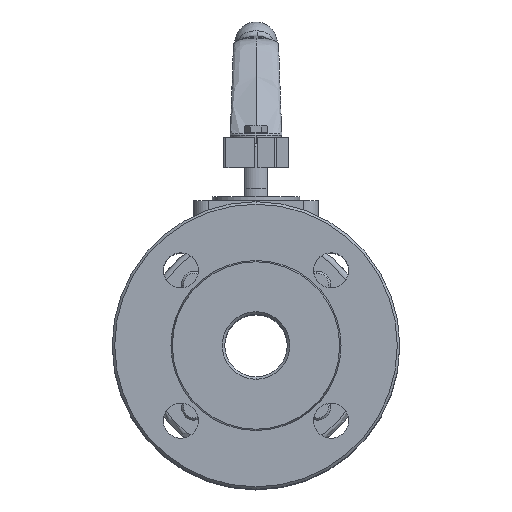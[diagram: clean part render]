
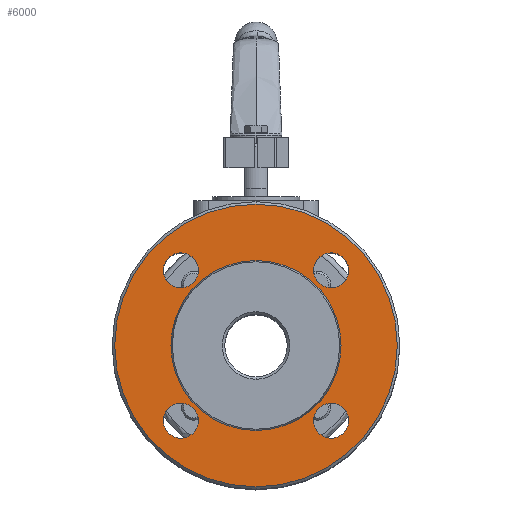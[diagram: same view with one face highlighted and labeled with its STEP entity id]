
A CAD part, top view. The second image highlights one B-rep face of the part: STEP entity #6000.
In plain terms, the highlighted planar face has unit normal (0, 0, 1) as drawn and (-1, 0, 0) by its records, which use the part's own axes.
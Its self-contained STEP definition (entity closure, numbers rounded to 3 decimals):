
#189 = FACE_BOUND ( 'NONE', #1568, .T. ) ;
#342 = ORIENTED_EDGE ( 'NONE', *, *, #6024, .F. ) ;
#355 = ORIENTED_EDGE ( 'NONE', *, *, #8932, .F. ) ;
#376 = AXIS2_PLACEMENT_3D ( 'NONE', #5264, #13040, #6381 ) ;
#478 = EDGE_CURVE ( 'NONE', #3376, #13460, #5576, .T. ) ;
#746 = ORIENTED_EDGE ( 'NONE', *, *, #478, .F. ) ;
#855 = DIRECTION ( 'NONE',  ( 0., 0., 1. ) ) ;
#868 = EDGE_LOOP ( 'NONE', ( #5118, #355 ) ) ;
#890 = CARTESIAN_POINT ( 'NONE',  ( -46.5, -56.5, 0. ) ) ;
#964 = ORIENTED_EDGE ( 'NONE', *, *, #13009, .F. ) ;
#1137 = AXIS2_PLACEMENT_3D ( 'NONE', #14209, #7556, #855 ) ;
#1203 = AXIS2_PLACEMENT_3D ( 'NONE', #8525, #1858, #9651 ) ;
#1296 = CIRCLE ( 'NONE', #2808, 56.5 ) ;
#1568 = EDGE_LOOP ( 'NONE', ( #342, #964 ) ) ;
#1858 = DIRECTION ( 'NONE',  ( -1., 0., 0. ) ) ;
#2011 = CIRCLE ( 'NONE', #2154, 7. ) ;
#2096 = VERTEX_POINT ( 'NONE', #890 ) ;
#2154 = AXIS2_PLACEMENT_3D ( 'NONE', #10099, #3416, #11226 ) ;
#2344 = AXIS2_PLACEMENT_3D ( 'NONE', #2530, #10311, #3629 ) ;
#2359 = ORIENTED_EDGE ( 'NONE', *, *, #12184, .T. ) ;
#2474 = CIRCLE ( 'NONE', #1203, 7. ) ;
#2530 = CARTESIAN_POINT ( 'NONE',  ( -46.5, 0., 0. ) ) ;
#2663 = CIRCLE ( 'NONE', #10742, 56.5 ) ;
#2808 = AXIS2_PLACEMENT_3D ( 'NONE', #6701, #14471, #7830 ) ;
#2809 = VERTEX_POINT ( 'NONE', #9012 ) ;
#2854 = FACE_BOUND ( 'NONE', #868, .T. ) ;
#3048 = DIRECTION ( 'NONE',  ( -1., 0., 0. ) ) ;
#3050 = CIRCLE ( 'NONE', #2344, 34. ) ;
#3054 = DIRECTION ( 'NONE',  ( -1., 0., 0. ) ) ;
#3134 = CARTESIAN_POINT ( 'NONE',  ( -46.5, 30.052, 37.052 ) ) ;
#3210 = DIRECTION ( 'NONE',  ( -1., 0., 0. ) ) ;
#3376 = VERTEX_POINT ( 'NONE', #12484 ) ;
#3407 = AXIS2_PLACEMENT_3D ( 'NONE', #9720, #3054, #10829 ) ;
#3416 = DIRECTION ( 'NONE',  ( -1., 0., 0. ) ) ;
#3568 = AXIS2_PLACEMENT_3D ( 'NONE', #9872, #3210, #10977 ) ;
#3629 = DIRECTION ( 'NONE',  ( 0., -1., 0. ) ) ;
#3734 = VERTEX_POINT ( 'NONE', #10293 ) ;
#4132 = PLANE ( 'NONE',  #376 ) ;
#4497 = CARTESIAN_POINT ( 'NONE',  ( -46.5, -30.052, 30.052 ) ) ;
#4616 = CARTESIAN_POINT ( 'NONE',  ( -46.5, 0., 0. ) ) ;
#4711 = ORIENTED_EDGE ( 'NONE', *, *, #11798, .F. ) ;
#4954 = AXIS2_PLACEMENT_3D ( 'NONE', #11826, #11970, #11922 ) ;
#5118 = ORIENTED_EDGE ( 'NONE', *, *, #12818, .F. ) ;
#5264 = CARTESIAN_POINT ( 'NONE',  ( -46.5, -56.5, 0. ) ) ;
#5282 = EDGE_LOOP ( 'NONE', ( #6090, #7130 ) ) ;
#5459 = FACE_BOUND ( 'NONE', #11851, .T. ) ;
#5576 = CIRCLE ( 'NONE', #4954, 7. ) ;
#5616 = DIRECTION ( 'NONE',  ( 0., 0., 1. ) ) ;
#5678 = AXIS2_PLACEMENT_3D ( 'NONE', #4616, #12386, #5727 ) ;
#5727 = DIRECTION ( 'NONE',  ( 0., -1., 0. ) ) ;
#5775 = CARTESIAN_POINT ( 'NONE',  ( -46.5, 30.052, -37.052 ) ) ;
#5950 = ORIENTED_EDGE ( 'NONE', *, *, #12619, .T. ) ;
#5978 = AXIS2_PLACEMENT_3D ( 'NONE', #4497, #12275, #5616 ) ;
#6000 = ADVANCED_FACE ( 'NONE', ( #11383, #14320, #2854, #189, #8431, #5459 ), #4132, .T. ) ;
#6024 = EDGE_CURVE ( 'NONE', #10641, #2809, #13987, .T. ) ;
#6048 = VERTEX_POINT ( 'NONE', #14249 ) ;
#6090 = ORIENTED_EDGE ( 'NONE', *, *, #6678, .F. ) ;
#6288 = CARTESIAN_POINT ( 'NONE',  ( -46.5, -30.052, 37.052 ) ) ;
#6381 = DIRECTION ( 'NONE',  ( 0., -1., 0. ) ) ;
#6428 = CARTESIAN_POINT ( 'NONE',  ( -46.5, 30.052, 30.052 ) ) ;
#6678 = EDGE_CURVE ( 'NONE', #12695, #10749, #13618, .T. ) ;
#6701 = CARTESIAN_POINT ( 'NONE',  ( -46.5, 0., 0. ) ) ;
#7130 = ORIENTED_EDGE ( 'NONE', *, *, #10209, .F. ) ;
#7442 = ORIENTED_EDGE ( 'NONE', *, *, #10809, .F. ) ;
#7555 = DIRECTION ( 'NONE',  ( 0., 0., 1. ) ) ;
#7556 = DIRECTION ( 'NONE',  ( -1., 0., 0. ) ) ;
#7781 = VERTEX_POINT ( 'NONE', #9279 ) ;
#7830 = DIRECTION ( 'NONE',  ( 0., -1., 0. ) ) ;
#8031 = EDGE_LOOP ( 'NONE', ( #746, #12646 ) ) ;
#8431 = FACE_OUTER_BOUND ( 'NONE', #12033, .T. ) ;
#8525 = CARTESIAN_POINT ( 'NONE',  ( -46.5, -30.052, -30.052 ) ) ;
#8613 = CARTESIAN_POINT ( 'NONE',  ( -46.5, -30.052, -23.052 ) ) ;
#8932 = EDGE_CURVE ( 'NONE', #3734, #9274, #13382, .T. ) ;
#9012 = CARTESIAN_POINT ( 'NONE',  ( -46.5, -30.052, -37.052 ) ) ;
#9274 = VERTEX_POINT ( 'NONE', #6288 ) ;
#9279 = CARTESIAN_POINT ( 'NONE',  ( -46.5, -34., 0. ) ) ;
#9651 = DIRECTION ( 'NONE',  ( 0., 0., 1. ) ) ;
#9714 = CARTESIAN_POINT ( 'NONE',  ( -46.5, 0., 0. ) ) ;
#9720 = CARTESIAN_POINT ( 'NONE',  ( -46.5, -30.052, 30.052 ) ) ;
#9872 = CARTESIAN_POINT ( 'NONE',  ( -46.5, 30.052, 30.052 ) ) ;
#10050 = CIRCLE ( 'NONE', #13497, 7. ) ;
#10099 = CARTESIAN_POINT ( 'NONE',  ( -46.5, 30.052, -30.052 ) ) ;
#10209 = EDGE_CURVE ( 'NONE', #10749, #12695, #10050, .T. ) ;
#10293 = CARTESIAN_POINT ( 'NONE',  ( -46.5, -30.052, 23.052 ) ) ;
#10311 = DIRECTION ( 'NONE',  ( -1., 0., 0. ) ) ;
#10641 = VERTEX_POINT ( 'NONE', #8613 ) ;
#10742 = AXIS2_PLACEMENT_3D ( 'NONE', #9714, #3048, #10824 ) ;
#10749 = VERTEX_POINT ( 'NONE', #12253 ) ;
#10809 = EDGE_CURVE ( 'NONE', #7781, #6048, #12447, .T. ) ;
#10824 = DIRECTION ( 'NONE',  ( 0., -1., 0. ) ) ;
#10829 = DIRECTION ( 'NONE',  ( 0., 0., 1. ) ) ;
#10977 = DIRECTION ( 'NONE',  ( 0., 0., 1. ) ) ;
#11226 = DIRECTION ( 'NONE',  ( 0., 0., 1. ) ) ;
#11280 = EDGE_CURVE ( 'NONE', #13460, #3376, #2011, .T. ) ;
#11383 = FACE_BOUND ( 'NONE', #8031, .T. ) ;
#11798 = EDGE_CURVE ( 'NONE', #6048, #7781, #3050, .T. ) ;
#11826 = CARTESIAN_POINT ( 'NONE',  ( -46.5, 30.052, -30.052 ) ) ;
#11851 = EDGE_LOOP ( 'NONE', ( #4711, #7442 ) ) ;
#11922 = DIRECTION ( 'NONE',  ( 0., 0., 1. ) ) ;
#11970 = DIRECTION ( 'NONE',  ( -1., 0., 0. ) ) ;
#12033 = EDGE_LOOP ( 'NONE', ( #2359, #5950 ) ) ;
#12184 = EDGE_CURVE ( 'NONE', #13457, #2096, #1296, .T. ) ;
#12253 = CARTESIAN_POINT ( 'NONE',  ( -46.5, 30.052, 23.052 ) ) ;
#12275 = DIRECTION ( 'NONE',  ( -1., 0., 0. ) ) ;
#12386 = DIRECTION ( 'NONE',  ( -1., 0., 0. ) ) ;
#12432 = CARTESIAN_POINT ( 'NONE',  ( -46.5, 56.5, 0. ) ) ;
#12447 = CIRCLE ( 'NONE', #5678, 34. ) ;
#12484 = CARTESIAN_POINT ( 'NONE',  ( -46.5, 30.052, -23.052 ) ) ;
#12619 = EDGE_CURVE ( 'NONE', #2096, #13457, #2663, .T. ) ;
#12646 = ORIENTED_EDGE ( 'NONE', *, *, #11280, .F. ) ;
#12695 = VERTEX_POINT ( 'NONE', #3134 ) ;
#12740 = CIRCLE ( 'NONE', #5978, 7. ) ;
#12818 = EDGE_CURVE ( 'NONE', #9274, #3734, #12740, .T. ) ;
#13009 = EDGE_CURVE ( 'NONE', #2809, #10641, #2474, .T. ) ;
#13040 = DIRECTION ( 'NONE',  ( -1., 0., 0. ) ) ;
#13382 = CIRCLE ( 'NONE', #3407, 7. ) ;
#13457 = VERTEX_POINT ( 'NONE', #12432 ) ;
#13460 = VERTEX_POINT ( 'NONE', #5775 ) ;
#13497 = AXIS2_PLACEMENT_3D ( 'NONE', #6428, #14208, #7555 ) ;
#13618 = CIRCLE ( 'NONE', #3568, 7. ) ;
#13987 = CIRCLE ( 'NONE', #1137, 7. ) ;
#14208 = DIRECTION ( 'NONE',  ( -1., 0., 0. ) ) ;
#14209 = CARTESIAN_POINT ( 'NONE',  ( -46.5, -30.052, -30.052 ) ) ;
#14249 = CARTESIAN_POINT ( 'NONE',  ( -46.5, 34., 0. ) ) ;
#14320 = FACE_BOUND ( 'NONE', #5282, .T. ) ;
#14471 = DIRECTION ( 'NONE',  ( -1., 0., 0. ) ) ;
